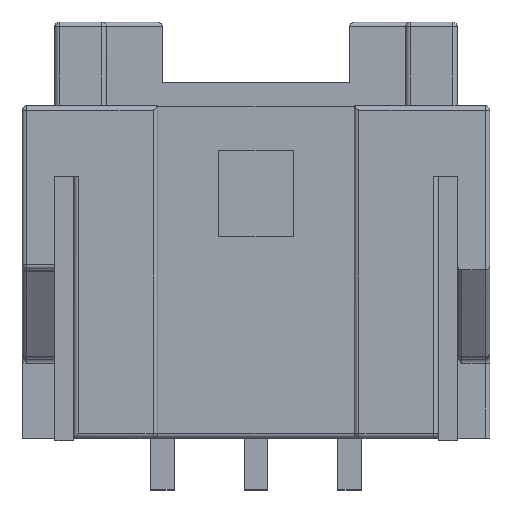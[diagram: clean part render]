
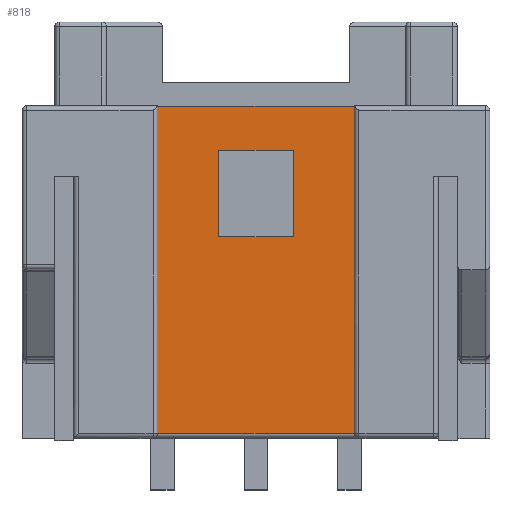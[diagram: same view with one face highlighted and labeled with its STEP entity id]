
A CAD part, top view. The second image highlights one B-rep face of the part: STEP entity #818.
In plain terms, the highlighted planar face has unit normal (0, 0, 1).
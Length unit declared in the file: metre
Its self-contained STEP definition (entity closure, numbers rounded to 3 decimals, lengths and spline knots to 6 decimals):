
#790 = EDGE_CURVE( '', #2273, #2274, #2275, .T. );
#818 = ADVANCED_FACE( '', ( #2325, #2326 ), #2327, .F. );
#1144 = EDGE_CURVE( '', #2856, #2274, #2857, .T. );
#1176 = EDGE_CURVE( '', #2903, #2904, #2905, .T. );
#1264 = EDGE_CURVE( '', #2715, #2273, #3040, .T. );
#1400 = EDGE_CURVE( '', #2903, #3232, #3233, .T. );
#1428 = EDGE_CURVE( '', #2856, #2715, #3270, .T. );
#1536 = EDGE_CURVE( '', #3232, #3417, #3418, .T. );
#1616 = EDGE_CURVE( '', #2904, #3417, #3520, .T. );
#2273 = VERTEX_POINT( '', #4278 );
#2274 = VERTEX_POINT( '', #4279 );
#2275 = LINE( '', #4280, #4281 );
#2325 = FACE_OUTER_BOUND( '', #4348, .T. );
#2326 = FACE_BOUND( '', #4349, .T. );
#2327 = PLANE( '', #4350 );
#2715 = VERTEX_POINT( '', #4878 );
#2856 = VERTEX_POINT( '', #5078 );
#2857 = LINE( '', #5079, #5080 );
#2903 = VERTEX_POINT( '', #5145 );
#2904 = VERTEX_POINT( '', #5146 );
#2905 = LINE( '', #5147, #5148 );
#3040 = LINE( '', #5341, #5342 );
#3232 = VERTEX_POINT( '', #5615 );
#3233 = LINE( '', #5616, #5617 );
#3270 = LINE( '', #5671, #5672 );
#3417 = VERTEX_POINT( '', #5883 );
#3418 = LINE( '', #5884, #5885 );
#3520 = LINE( '', #6037, #6038 );
#4278 = CARTESIAN_POINT( '', ( -0.0021, 0.00265, 0.0047 ) );
#4279 = CARTESIAN_POINT( '', ( 0.0021, 0.00265, 0.0047 ) );
#4280 = CARTESIAN_POINT( '', ( 0.005, 0.00265, 0.0047 ) );
#4281 = VECTOR( '', #7107, 1. );
#4348 = EDGE_LOOP( '', ( #7149, #7150, #7151, #7152 ) );
#4349 = EDGE_LOOP( '', ( #7153, #7154, #7155, #7156 ) );
#4350 = AXIS2_PLACEMENT_3D( '', #7157, #7158, #7159 );
#4878 = CARTESIAN_POINT( '', ( -0.0021, -0.00435, 0.0047 ) );
#5078 = CARTESIAN_POINT( '', ( 0.0021, -0.00435, 0.0047 ) );
#5079 = CARTESIAN_POINT( '', ( 0.0021, -0.00445, 0.0047 ) );
#5080 = VECTOR( '', #7770, 1. );
#5145 = CARTESIAN_POINT( '', ( 0.0008, -0.00015, 0.0047 ) );
#5146 = CARTESIAN_POINT( '', ( 0.0008, 0.0017, 0.0047 ) );
#5147 = CARTESIAN_POINT( '', ( 0.0008, 0.0017, 0.0047 ) );
#5148 = VECTOR( '', #7821, 1. );
#5341 = CARTESIAN_POINT( '', ( -0.0021, -0.00445, 0.0047 ) );
#5342 = VECTOR( '', #7965, 1. );
#5615 = CARTESIAN_POINT( '', ( -0.0008, -0.00015, 0.0047 ) );
#5616 = CARTESIAN_POINT( '', ( 0.0008, -0.00015, 0.0047 ) );
#5617 = VECTOR( '', #8220, 1. );
#5671 = CARTESIAN_POINT( '', ( 0.00355, -0.00435, 0.0047 ) );
#5672 = VECTOR( '', #8266, 1. );
#5883 = CARTESIAN_POINT( '', ( -0.0008, 0.0017, 0.0047 ) );
#5884 = CARTESIAN_POINT( '', ( -0.0008, 0.0017, 0.0047 ) );
#5885 = VECTOR( '', #8488, 1. );
#6037 = CARTESIAN_POINT( '', ( 0.0008, 0.0017, 0.0047 ) );
#6038 = VECTOR( '', #8644, 1. );
#7107 = DIRECTION( '', ( 1., 0., 0. ) );
#7149 = ORIENTED_EDGE( '', *, *, #1428, .F. );
#7150 = ORIENTED_EDGE( '', *, *, #1144, .T. );
#7151 = ORIENTED_EDGE( '', *, *, #790, .F. );
#7152 = ORIENTED_EDGE( '', *, *, #1264, .F. );
#7153 = ORIENTED_EDGE( '', *, *, #1176, .F. );
#7154 = ORIENTED_EDGE( '', *, *, #1400, .T. );
#7155 = ORIENTED_EDGE( '', *, *, #1536, .T. );
#7156 = ORIENTED_EDGE( '', *, *, #1616, .F. );
#7157 = CARTESIAN_POINT( '', ( 0.0021, -0.00445, 0.0047 ) );
#7158 = DIRECTION( '', ( 0., 0., -1. ) );
#7159 = DIRECTION( '', ( -1., 0., 0. ) );
#7770 = DIRECTION( '', ( 0., 1., 0. ) );
#7821 = DIRECTION( '', ( 0., 1., 0. ) );
#7965 = DIRECTION( '', ( 0., 1., 0. ) );
#8220 = DIRECTION( '', ( -1., 0., 0. ) );
#8266 = DIRECTION( '', ( -1., 0., 0. ) );
#8488 = DIRECTION( '', ( 0., 1., 0. ) );
#8644 = DIRECTION( '', ( -1., 0., 0. ) );
